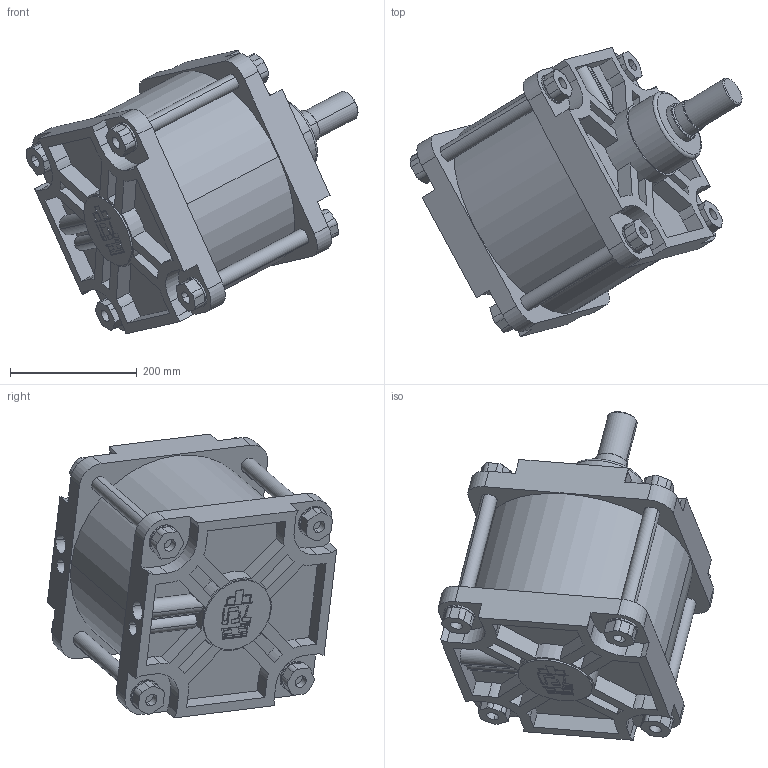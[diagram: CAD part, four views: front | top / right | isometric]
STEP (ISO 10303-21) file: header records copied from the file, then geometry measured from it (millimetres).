
FILE_DESCRIPTION(('CATIA V5 STEP Exchange'),'2;1');
FILE_NAME('D:\stp file for catalog\PNC\320\PNC 320-63-80.stp','2015-10-27T13:59:44+00:00',('none'),('none'),'Version 5-6 Release 2012','CATIA V5 STEP AP203','none');
FILE_SCHEMA(('CONFIG_CONTROL_DESIGN'));
Length unit declared in the file: millimetre
Products named in the file (1): PNC 320-63-80-00
Assembly tree (2 placements, depth 2):
  PNC 320-63-80-00
    #58
    #14831
Bounding box: 524.63 x 457.23 x 448.68 mm (x, y, z)
Volume: 15586731 mm3; surface area: 1416998.8 mm2
Topology: 2 solids, 4 shells, 522 faces, 1393 edges, 921 vertices
Faces by surface type: plane 305, cylinder 169, cone 42, torus 6
Entity records: 15447 total; most frequent: CARTESIAN_POINT 3485, ORIENTED_EDGE 2786, DIRECTION 1853, EDGE_CURVE 1393, VERTEX_POINT 921, VECTOR 878, LINE 878, AXIS2_PLACEMENT_3D 682
